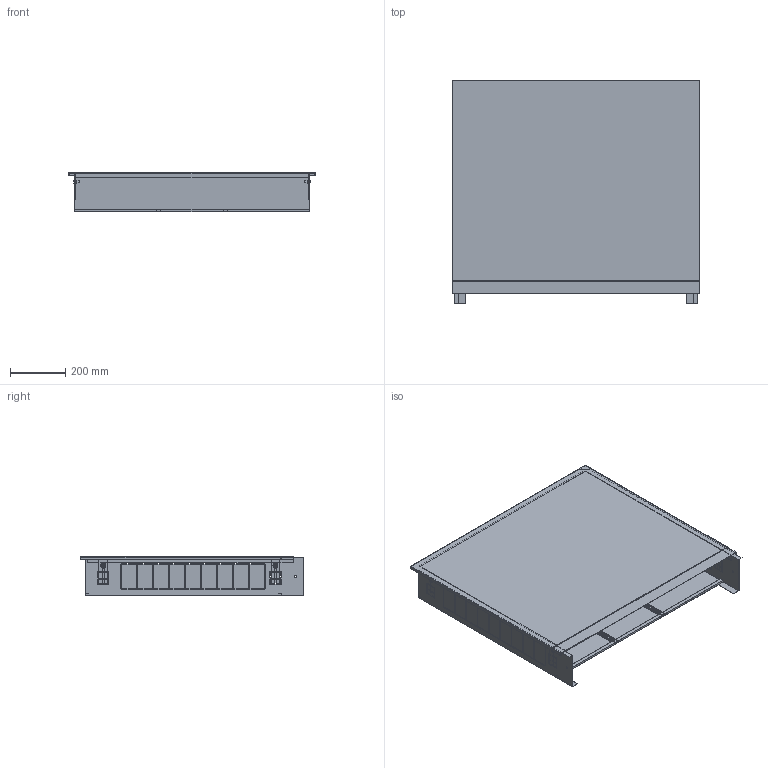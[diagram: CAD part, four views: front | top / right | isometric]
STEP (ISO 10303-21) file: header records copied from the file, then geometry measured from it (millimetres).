
FILE_DESCRIPTION(('STEP AP203'), '1');
FILE_NAME('VTc.540.H.04', '', ('UNSPECIFIED'), ('UNSPECIFIED'), 'C3D Converter', 'C3D Toolkit', '');
FILE_SCHEMA(('CONFIG_CONTROL_DESIGN'));
Length unit declared in the file: millimetre
Products named in the file (1): ВР.301442.003.000 СБ
Bounding box: 895.6 x 808.3 x 141.3 mm (x, y, z)
Volume: 1924772.8 mm3; surface area: 3606569.5 mm2
Topology: 1 solids, 1 shells, 620 faces, 1750 edges, 1134 vertices
Faces by surface type: plane 514, cone 60, cylinder 42, sphere 4
Full cylindrical faces by diameter (mm): 6 x8, 6.4 x4, 7 x2, 14 x4, 18 x4
Entity records: 21676 total; most frequent: CARTESIAN_POINT 5699, ORIENTED_EDGE 3384, DIRECTION 2998, EDGE_CURVE 1692, LINE 1420, VECTOR 1420, VERTEX_POINT 1122, EDGE_LOOP 810
